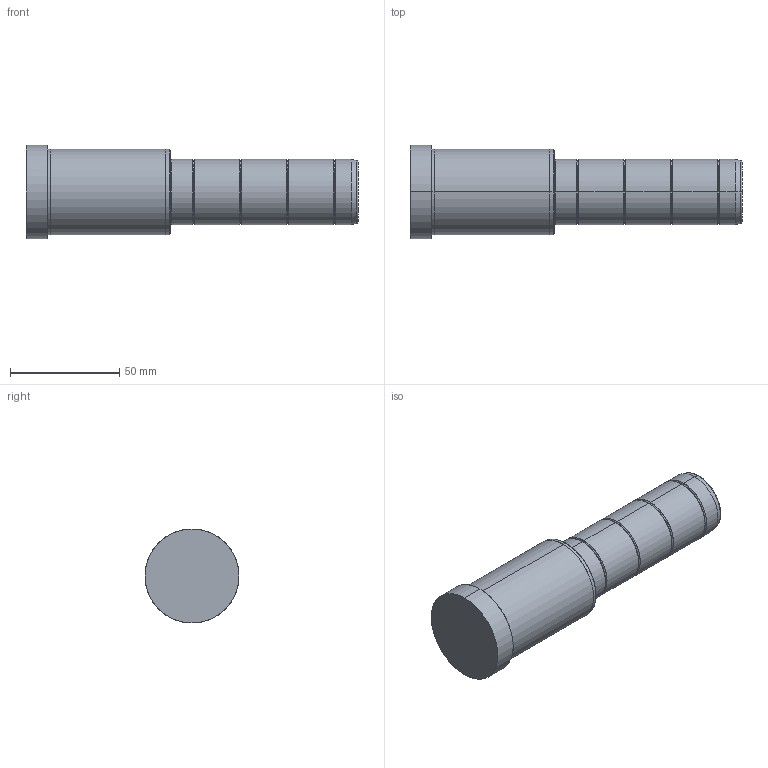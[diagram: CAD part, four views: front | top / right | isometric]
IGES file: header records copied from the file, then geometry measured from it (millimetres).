
Start section: SolidWorks IGES file using analytic representation for surfaces
Global section: file name: C:\Documents and Settings\kalite-mail\Desktop\IGS\D02\30\D02 - 30x66x86.IGS; native system: SolidWorks 2008; preprocessor: SolidWorks 2008; author: kalite-mail; date: 080617.092402; units: millimetre
Bounding box: 152 x 43 x 43 mm (x, y, z)
Surface area: 19281.9 mm2 (no closed solid volume)
Topology: 0 solids, 0 shells, 48 faces, 776 edges, 776 vertices
Faces by surface type: bspline 26, revolution 22
